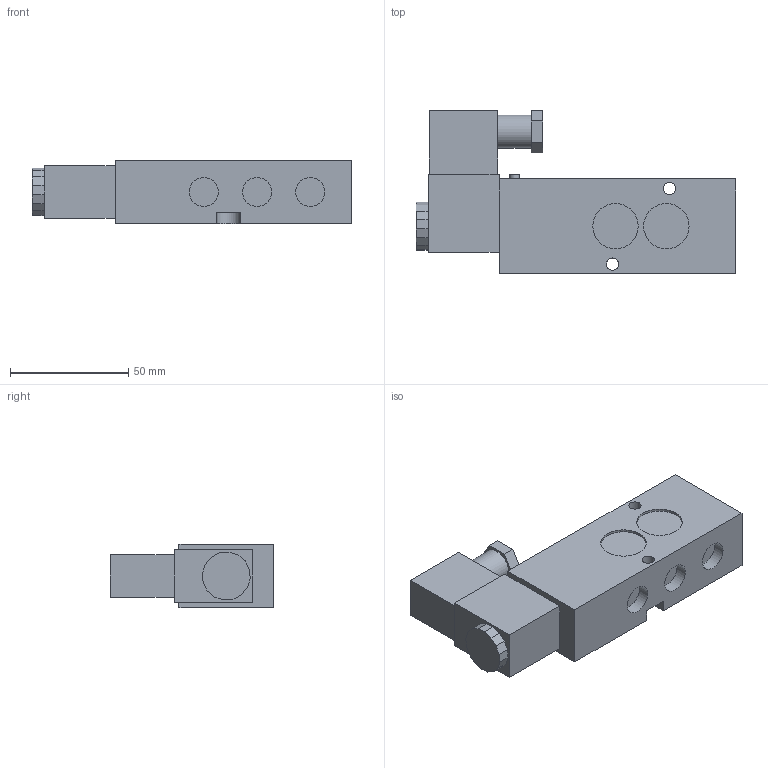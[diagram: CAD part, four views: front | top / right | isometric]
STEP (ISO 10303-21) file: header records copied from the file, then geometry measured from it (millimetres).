
FILE_DESCRIPTION(('STEP AP203'), '1');
FILE_NAME('4M310-08 24VDC 砅槻斁譇厴謥麧錒蠈錪 DN.ru', '2026-04-20T19:15:08', ('R2D2'), (''), 'C3D Converter', 'C3D Toolkit', '');
FILE_SCHEMA(('CONFIG_CONTROL_DESIGN'));
Length unit declared in the file: millimetre
Products named in the file (1): 4M310-08 24VDC
Bounding box: 135 x 69 x 27 mm (x, y, z)
Volume: 144609.2 mm3; surface area: 24299.3 mm2
Topology: 1 solids, 1 shells, 65 faces, 157 edges, 104 vertices
Faces by surface type: plane 54, cylinder 11
Full cylindrical faces by diameter (mm): 4 x1, 5.2 x2, 12.3 x3, 14 x1, 19.2 x2
Entity records: 2063 total; most frequent: CARTESIAN_POINT 318, DIRECTION 302, ORIENTED_EDGE 296, EDGE_CURVE 148, LINE 126, VECTOR 126, VERTEX_POINT 104, AXIS2_PLACEMENT_3D 88
